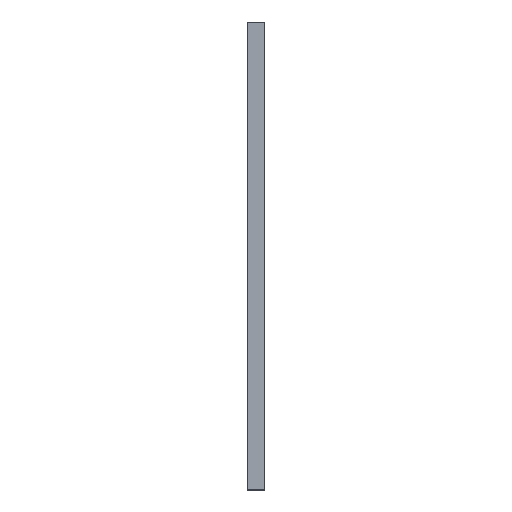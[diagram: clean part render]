
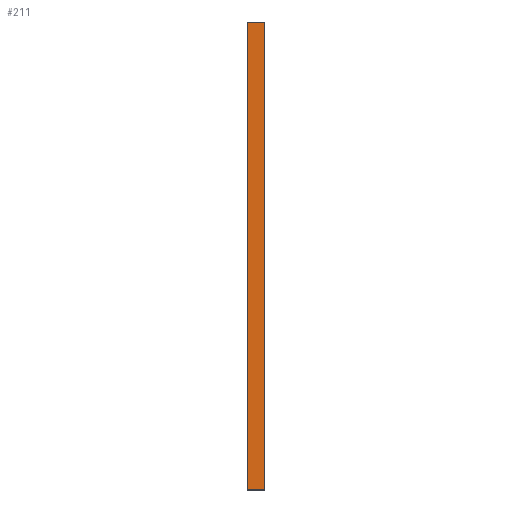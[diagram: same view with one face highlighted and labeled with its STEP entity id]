
A CAD part, top view. The second image highlights one B-rep face of the part: STEP entity #211.
In plain terms, the highlighted planar face has unit normal (0, 0, 1).
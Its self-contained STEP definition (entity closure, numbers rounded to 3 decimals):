
#32 = PLANE('',#33);
#33 = AXIS2_PLACEMENT_3D('',#34,#35,#36);
#34 = CARTESIAN_POINT('',(-38.,-66.,212.));
#35 = DIRECTION('',(0.,-1.,0.));
#36 = DIRECTION('',(0.,0.,1.));
#57 = VERTEX_POINT('',#58);
#58 = CARTESIAN_POINT('',(-34.,-66.,256.));
#72 = PLANE('',#73);
#73 = AXIS2_PLACEMENT_3D('',#74,#75,#76);
#74 = CARTESIAN_POINT('',(-34.,-13.,234.));
#75 = DIRECTION('',(-1.,-0.,-0.));
#76 = DIRECTION('',(0.,0.,-1.));
#84 = EDGE_CURVE('',#85,#57,#87,.T.);
#85 = VERTEX_POINT('',#86);
#86 = CARTESIAN_POINT('',(-38.,-66.,256.));
#87 = SURFACE_CURVE('',#88,(#92,#99),.PCURVE_S1.);
#88 = LINE('',#89,#90);
#89 = CARTESIAN_POINT('',(-38.,-66.,256.));
#90 = VECTOR('',#91,1.);
#91 = DIRECTION('',(1.,0.,0.));
#92 = PCURVE('',#32,#93);
#93 = DEFINITIONAL_REPRESENTATION('',(#94),#98);
#94 = LINE('',#95,#96);
#95 = CARTESIAN_POINT('',(44.,0.));
#96 = VECTOR('',#97,1.);
#97 = DIRECTION('',(0.,-1.));
#98 = ( GEOMETRIC_REPRESENTATION_CONTEXT(2) 
PARAMETRIC_REPRESENTATION_CONTEXT() REPRESENTATION_CONTEXT('2D SPACE',''
  ) );
#99 = PCURVE('',#100,#105);
#100 = PLANE('',#101);
#101 = AXIS2_PLACEMENT_3D('',#102,#103,#104);
#102 = CARTESIAN_POINT('',(-38.,-66.,256.));
#103 = DIRECTION('',(0.,0.,1.));
#104 = DIRECTION('',(0.,1.,0.));
#105 = DEFINITIONAL_REPRESENTATION('',(#106),#110);
#106 = LINE('',#107,#108);
#107 = CARTESIAN_POINT('',(0.,0.));
#108 = VECTOR('',#109,1.);
#109 = DIRECTION('',(0.,-1.));
#110 = ( GEOMETRIC_REPRESENTATION_CONTEXT(2) 
PARAMETRIC_REPRESENTATION_CONTEXT() REPRESENTATION_CONTEXT('2D SPACE',''
  ) );
#126 = PLANE('',#127);
#127 = AXIS2_PLACEMENT_3D('',#128,#129,#130);
#128 = CARTESIAN_POINT('',(-38.,-13.,234.));
#129 = DIRECTION('',(-1.,-0.,-0.));
#130 = DIRECTION('',(0.,0.,-1.));
#211 = ADVANCED_FACE('',(#212),#100,.T.);
#212 = FACE_BOUND('',#213,.T.);
#213 = EDGE_LOOP('',(#214,#215,#238,#266));
#214 = ORIENTED_EDGE('',*,*,#84,.T.);
#215 = ORIENTED_EDGE('',*,*,#216,.T.);
#216 = EDGE_CURVE('',#57,#217,#219,.T.);
#217 = VERTEX_POINT('',#218);
#218 = CARTESIAN_POINT('',(-34.,40.,256.));
#219 = SURFACE_CURVE('',#220,(#224,#231),.PCURVE_S1.);
#220 = LINE('',#221,#222);
#221 = CARTESIAN_POINT('',(-34.,-66.,256.));
#222 = VECTOR('',#223,1.);
#223 = DIRECTION('',(0.,1.,0.));
#224 = PCURVE('',#100,#225);
#225 = DEFINITIONAL_REPRESENTATION('',(#226),#230);
#226 = LINE('',#227,#228);
#227 = CARTESIAN_POINT('',(0.,-4.));
#228 = VECTOR('',#229,1.);
#229 = DIRECTION('',(1.,0.));
#230 = ( GEOMETRIC_REPRESENTATION_CONTEXT(2) 
PARAMETRIC_REPRESENTATION_CONTEXT() REPRESENTATION_CONTEXT('2D SPACE',''
  ) );
#231 = PCURVE('',#72,#232);
#232 = DEFINITIONAL_REPRESENTATION('',(#233),#237);
#233 = LINE('',#234,#235);
#234 = CARTESIAN_POINT('',(-22.,53.));
#235 = VECTOR('',#236,1.);
#236 = DIRECTION('',(0.,-1.));
#237 = ( GEOMETRIC_REPRESENTATION_CONTEXT(2) 
PARAMETRIC_REPRESENTATION_CONTEXT() REPRESENTATION_CONTEXT('2D SPACE',''
  ) );
#238 = ORIENTED_EDGE('',*,*,#239,.F.);
#239 = EDGE_CURVE('',#240,#217,#242,.T.);
#240 = VERTEX_POINT('',#241);
#241 = CARTESIAN_POINT('',(-38.,40.,256.));
#242 = SURFACE_CURVE('',#243,(#247,#254),.PCURVE_S1.);
#243 = LINE('',#244,#245);
#244 = CARTESIAN_POINT('',(-38.,40.,256.));
#245 = VECTOR('',#246,1.);
#246 = DIRECTION('',(1.,0.,0.));
#247 = PCURVE('',#100,#248);
#248 = DEFINITIONAL_REPRESENTATION('',(#249),#253);
#249 = LINE('',#250,#251);
#250 = CARTESIAN_POINT('',(106.,0.));
#251 = VECTOR('',#252,1.);
#252 = DIRECTION('',(0.,-1.));
#253 = ( GEOMETRIC_REPRESENTATION_CONTEXT(2) 
PARAMETRIC_REPRESENTATION_CONTEXT() REPRESENTATION_CONTEXT('2D SPACE',''
  ) );
#254 = PCURVE('',#255,#260);
#255 = PLANE('',#256);
#256 = AXIS2_PLACEMENT_3D('',#257,#258,#259);
#257 = CARTESIAN_POINT('',(-38.,40.,256.));
#258 = DIRECTION('',(-0.,1.,0.));
#259 = DIRECTION('',(0.,0.,-1.));
#260 = DEFINITIONAL_REPRESENTATION('',(#261),#265);
#261 = LINE('',#262,#263);
#262 = CARTESIAN_POINT('',(0.,0.));
#263 = VECTOR('',#264,1.);
#264 = DIRECTION('',(0.,-1.));
#265 = ( GEOMETRIC_REPRESENTATION_CONTEXT(2) 
PARAMETRIC_REPRESENTATION_CONTEXT() REPRESENTATION_CONTEXT('2D SPACE',''
  ) );
#266 = ORIENTED_EDGE('',*,*,#267,.F.);
#267 = EDGE_CURVE('',#85,#240,#268,.T.);
#268 = SURFACE_CURVE('',#269,(#273,#280),.PCURVE_S1.);
#269 = LINE('',#270,#271);
#270 = CARTESIAN_POINT('',(-38.,-66.,256.));
#271 = VECTOR('',#272,1.);
#272 = DIRECTION('',(0.,1.,0.));
#273 = PCURVE('',#100,#274);
#274 = DEFINITIONAL_REPRESENTATION('',(#275),#279);
#275 = LINE('',#276,#277);
#276 = CARTESIAN_POINT('',(0.,0.));
#277 = VECTOR('',#278,1.);
#278 = DIRECTION('',(1.,0.));
#279 = ( GEOMETRIC_REPRESENTATION_CONTEXT(2) 
PARAMETRIC_REPRESENTATION_CONTEXT() REPRESENTATION_CONTEXT('2D SPACE',''
  ) );
#280 = PCURVE('',#126,#281);
#281 = DEFINITIONAL_REPRESENTATION('',(#282),#286);
#282 = LINE('',#283,#284);
#283 = CARTESIAN_POINT('',(-22.,53.));
#284 = VECTOR('',#285,1.);
#285 = DIRECTION('',(0.,-1.));
#286 = ( GEOMETRIC_REPRESENTATION_CONTEXT(2) 
PARAMETRIC_REPRESENTATION_CONTEXT() REPRESENTATION_CONTEXT('2D SPACE',''
  ) );
